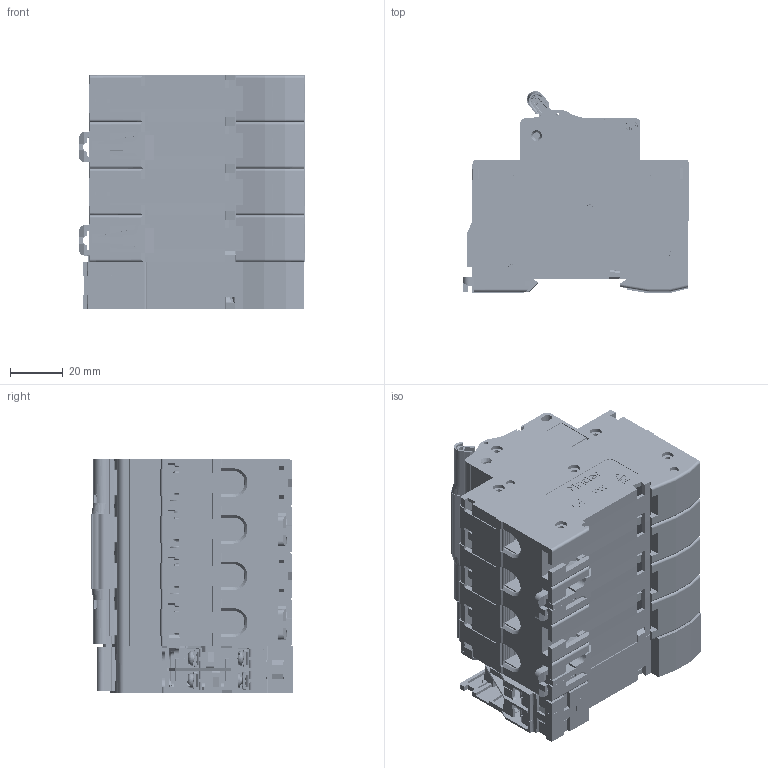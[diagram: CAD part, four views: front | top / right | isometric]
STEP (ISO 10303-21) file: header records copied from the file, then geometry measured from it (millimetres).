
FILE_DESCRIPTION (( 'STEP AP214' ), '1' );
FILE_NAME ('NDB2T-63 4P+MX+OF2.STEP', '2023-04-13T08:54:32', ( '' ), ( '' ), 'SwSTEP 2.0', 'SolidWorks 2018', '' );
FILE_SCHEMA (( 'AUTOMOTIVE_DESIGN' ));
Length unit declared in the file: millimetre
Products named in the file (28): 8LD.574.104; 8LD.516.164; 8LD.281.166; 8LD.516.135; 8LD.516.163; 8LD.441.106; 8LD.253.1257; MX+OF2 俋倛芞; 8LD.257.118; NDB2T-63 4P+MX+OF2; 8LD.024.193; 8LD.039.100; 8LD.315.168; 8LD.574.106; 8LD.907.115; 8LD.253.129; 8LD.371.103; 8LD.907.104; 8LD.024.137; 8LD.233.155; 4p; 5LD.574.103; 8LD.253.173; 8LD.315.141; 8LD.574.105.2; 8LD.143.115; 8LD.774.101; 8LD.315.140
Assembly tree (61 placements, depth 4):
  NDB2T-63 4P+MX+OF2
    4p
      8LD.024.137  x4
      8LD.253.129  x4
      5LD.574.103  x8
        8LD.516.135
        8LD.907.115
      8LD.315.140  x4
      8LD.143.115  x2
      8LD.253.173
      8LD.315.141  x2
      8LD.039.100  x4
      8LD.516.163  x4
      8LD.516.164  x4
    MX+OF2 俋倛芞
      8LD.257.118
      8LD.233.155
      8LD.907.104  x4
      8LD.371.103  x4
      8LD.281.166
      8LD.574.106  x2
      8LD.574.104
      8LD.024.193
      8LD.315.168
      8LD.253.1257
      8LD.774.101
      8LD.441.106
      8LD.574.105.2
Bounding box: 85.1 x 76.29 x 88.13 mm (x, y, z)
Volume: 334710 mm3; surface area: 240488 mm2
Topology: 110 solids, 142 shells, 16617 faces, 46506 edges, 30497 vertices
Faces by surface type: plane 9849, cylinder 4687, cone 1004, bspline 912, torus 129, sphere 36
Entity records: 213380 total; most frequent: CARTESIAN_POINT 66419, ORIENTED_EDGE 32256, DIRECTION 26717, EDGE_CURVE 16128, LINE 10819, VECTOR 10819, VERTEX_POINT 10604, AXIS2_PLACEMENT_3D 7949
